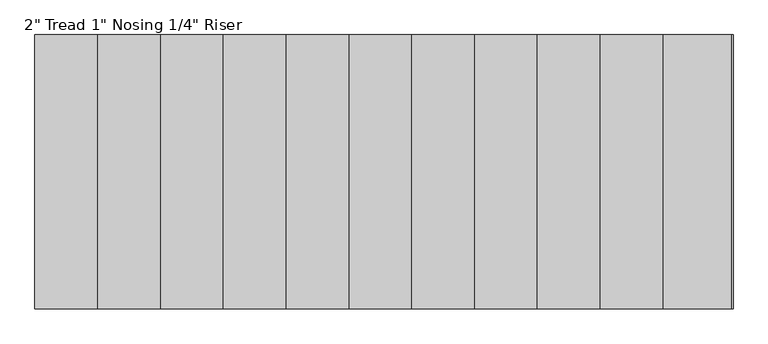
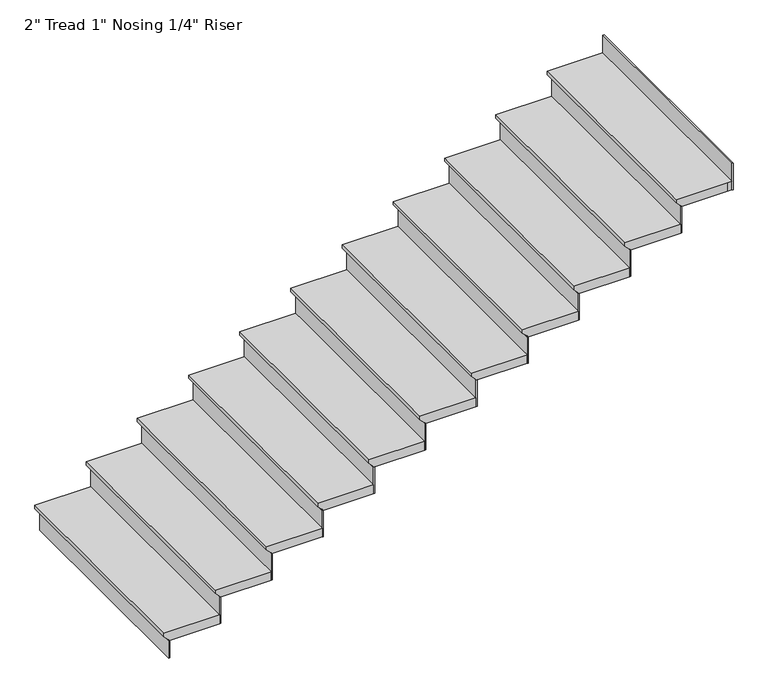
"""IFC4 building model written with IfcOpenShell, lengths in millimetres: stair flight geometry."""

from ifc_helpers import new_model, si_unit, origin, place, context, project, spatial, faceted_brep, source, transform, mapped, element, save


def stair_flight_60157ff4(model_context):
    return source(origin(), model_context, "Body", "Brep", [
        faceted_brep([(15326.0726301, 7827.7746638, 4705.35), (15326.0726301, 7827.7746638, 4724.4), (15326.0726301, 9046.9746638, 4724.4), (15326.0726301, 9046.9746638, 4705.35), (15351.4726301, 7827.7746638, 4679.95), (15351.4726301, 9046.9746638, 4679.95), (15630.8726301, 7827.7746638, 4724.4), (15630.8726301, 9046.9746638, 4724.4), (15351.4726301, 9046.9746638, 4673.6), (15630.8726301, 9046.9746638, 4673.6), (15630.8726301, 7827.7746638, 4673.6), (15351.4726301, 7827.7746638, 4673.6)], [[[0, 1, 2, 3]], [[4, 0, 3, 5]], [[2, 1, 6, 7]], [[8, 9, 10, 11]], [[2, 7, 9, 8, 5, 3]], [[8, 11, 4, 5]], [[6, 1, 0, 4, 11, 10]], [[7, 6, 10, 9]]]),
        faceted_brep([(15351.4726301, 7827.7746638, 4673.6), (15351.4726301, 7827.7746638, 4572.0), (15357.8226301, 7827.7746638, 4572.0), (15357.8226301, 7827.7746638, 4673.6), (15351.4726301, 9046.9746638, 4673.6), (15357.8226301, 9046.9746638, 4673.6), (15357.8226301, 9046.9746638, 4572.0), (15351.4726301, 9046.9746638, 4572.0)], [[[0, 1, 2, 3]], [[4, 5, 6, 7]], [[1, 0, 4, 7]], [[2, 1, 7, 6]], [[3, 2, 6, 5]], [[0, 3, 5, 4]]]),
        faceted_brep([(15630.8726301, 7827.7746638, 4826.0), (15630.8726301, 7827.7746638, 4673.6), (15637.2226301, 7827.7746638, 4673.6), (15637.2226301, 7827.7746638, 4826.0), (15630.8726301, 9046.9746638, 4826.0), (15637.2226301, 9046.9746638, 4826.0), (15637.2226301, 9046.9746638, 4673.6), (15630.8726301, 9046.9746638, 4673.6)], [[[0, 1, 2, 3]], [[4, 5, 6, 7]], [[1, 0, 4, 7]], [[2, 1, 7, 6]], [[3, 2, 6, 5]], [[0, 3, 5, 4]]]),
        faceted_brep([(15605.4726301, 9046.9746638, 4876.8), (15605.4726301, 7827.7746638, 4876.8), (15910.2726301, 7827.7746638, 4876.8), (15910.2726301, 9046.9746638, 4876.8), (15630.8726301, 9046.9746638, 4826.0), (15910.2726301, 9046.9746638, 4826.0), (15910.2726301, 7827.7746638, 4826.0), (15630.8726301, 7827.7746638, 4826.0), (15630.8726301, 9046.9746638, 4832.35), (15605.4726301, 9046.9746638, 4857.75), (15630.8726301, 7827.7746638, 4832.35), (15605.4726301, 7827.7746638, 4857.75)], [[[0, 1, 2, 3]], [[4, 5, 6, 7]], [[0, 3, 5, 4, 8, 9]], [[4, 7, 10, 8]], [[2, 1, 11, 10, 7, 6]], [[3, 2, 6, 5]], [[11, 1, 0, 9]], [[10, 11, 9, 8]]]),
        faceted_brep([(15910.2726301, 7827.7746638, 4978.4), (15910.2726301, 7827.7746638, 4826.0), (15916.6226301, 7827.7746638, 4826.0), (15916.6226301, 7827.7746638, 4978.4), (15910.2726301, 9046.9746638, 4978.4), (15916.6226301, 9046.9746638, 4978.4), (15916.6226301, 9046.9746638, 4826.0), (15910.2726301, 9046.9746638, 4826.0)], [[[0, 1, 2, 3]], [[4, 5, 6, 7]], [[1, 0, 4, 7]], [[2, 1, 7, 6]], [[3, 2, 6, 5]], [[0, 3, 5, 4]]]),
        faceted_brep([(15884.8726301, 9046.9746638, 5029.2), (15884.8726301, 7827.7746638, 5029.2), (16189.6726301, 7827.7746638, 5029.2), (16189.6726301, 9046.9746638, 5029.2), (15910.2726301, 9046.9746638, 4978.4), (16189.6726301, 9046.9746638, 4978.4), (16189.6726301, 7827.7746638, 4978.4), (15910.2726301, 7827.7746638, 4978.4), (15910.2726301, 9046.9746638, 4984.75), (15884.8726301, 9046.9746638, 5010.15), (15910.2726301, 7827.7746638, 4984.75), (15884.8726301, 7827.7746638, 5010.15)], [[[0, 1, 2, 3]], [[4, 5, 6, 7]], [[0, 3, 5, 4, 8, 9]], [[4, 7, 10, 8]], [[2, 1, 11, 10, 7, 6]], [[3, 2, 6, 5]], [[11, 1, 0, 9]], [[10, 11, 9, 8]]]),
        faceted_brep([(16189.6726301, 7827.7746638, 5130.8), (16189.6726301, 7827.7746638, 4978.4), (16196.0226301, 7827.7746638, 4978.4), (16196.0226301, 7827.7746638, 5130.8), (16189.6726301, 9046.9746638, 5130.8), (16196.0226301, 9046.9746638, 5130.8), (16196.0226301, 9046.9746638, 4978.4), (16189.6726301, 9046.9746638, 4978.4)], [[[0, 1, 2, 3]], [[4, 5, 6, 7]], [[1, 0, 4, 7]], [[2, 1, 7, 6]], [[3, 2, 6, 5]], [[0, 3, 5, 4]]]),
        faceted_brep([(16164.2726301, 9046.9746638, 5181.6), (16164.2726301, 7827.7746638, 5181.6), (16469.0726301, 7827.7746638, 5181.6), (16469.0726301, 9046.9746638, 5181.6), (16189.6726301, 9046.9746638, 5130.8), (16469.0726301, 9046.9746638, 5130.8), (16469.0726301, 7827.7746638, 5130.8), (16189.6726301, 7827.7746638, 5130.8), (16189.6726301, 9046.9746638, 5137.15), (16164.2726301, 9046.9746638, 5162.55), (16189.6726301, 7827.7746638, 5137.15), (16164.2726301, 7827.7746638, 5162.55)], [[[0, 1, 2, 3]], [[4, 5, 6, 7]], [[0, 3, 5, 4, 8, 9]], [[4, 7, 10, 8]], [[2, 1, 11, 10, 7, 6]], [[3, 2, 6, 5]], [[11, 1, 0, 9]], [[10, 11, 9, 8]]]),
        faceted_brep([(16469.0726301, 7827.7746638, 5283.2), (16469.0726301, 7827.7746638, 5130.8), (16475.4226301, 7827.7746638, 5130.8), (16475.4226301, 7827.7746638, 5283.2), (16469.0726301, 9046.9746638, 5283.2), (16475.4226301, 9046.9746638, 5283.2), (16475.4226301, 9046.9746638, 5130.8), (16469.0726301, 9046.9746638, 5130.8)], [[[0, 1, 2, 3]], [[4, 5, 6, 7]], [[1, 0, 4, 7]], [[2, 1, 7, 6]], [[3, 2, 6, 5]], [[0, 3, 5, 4]]]),
        faceted_brep([(16443.6726301, 9046.9746638, 5334.0), (16443.6726301, 7827.7746638, 5334.0), (16748.4726301, 7827.7746638, 5334.0), (16748.4726301, 9046.9746638, 5334.0), (16469.0726301, 9046.9746638, 5283.2), (16748.4726301, 9046.9746638, 5283.2), (16748.4726301, 7827.7746638, 5283.2), (16469.0726301, 7827.7746638, 5283.2), (16469.0726301, 9046.9746638, 5289.55), (16443.6726301, 9046.9746638, 5314.95), (16469.0726301, 7827.7746638, 5289.55), (16443.6726301, 7827.7746638, 5314.95)], [[[0, 1, 2, 3]], [[4, 5, 6, 7]], [[0, 3, 5, 4, 8, 9]], [[4, 7, 10, 8]], [[2, 1, 11, 10, 7, 6]], [[3, 2, 6, 5]], [[11, 1, 0, 9]], [[10, 11, 9, 8]]]),
        faceted_brep([(16748.4726301, 7827.7746638, 5435.6), (16748.4726301, 7827.7746638, 5283.2), (16754.8226301, 7827.7746638, 5283.2), (16754.8226301, 7827.7746638, 5435.6), (16748.4726301, 9046.9746638, 5435.6), (16754.8226301, 9046.9746638, 5435.6), (16754.8226301, 9046.9746638, 5283.2), (16748.4726301, 9046.9746638, 5283.2)], [[[0, 1, 2, 3]], [[4, 5, 6, 7]], [[1, 0, 4, 7]], [[2, 1, 7, 6]], [[3, 2, 6, 5]], [[0, 3, 5, 4]]]),
        faceted_brep([(16723.0726301, 9046.9746638, 5486.4), (16723.0726301, 7827.7746638, 5486.4), (17027.8726301, 7827.7746638, 5486.4), (17027.8726301, 9046.9746638, 5486.4), (16748.4726301, 9046.9746638, 5435.6), (17027.8726301, 9046.9746638, 5435.6), (17027.8726301, 7827.7746638, 5435.6), (16748.4726301, 7827.7746638, 5435.6), (16748.4726301, 9046.9746638, 5441.95), (16723.0726301, 9046.9746638, 5467.35), (16748.4726301, 7827.7746638, 5441.95), (16723.0726301, 7827.7746638, 5467.35)], [[[0, 1, 2, 3]], [[4, 5, 6, 7]], [[0, 3, 5, 4, 8, 9]], [[4, 7, 10, 8]], [[2, 1, 11, 10, 7, 6]], [[3, 2, 6, 5]], [[11, 1, 0, 9]], [[10, 11, 9, 8]]]),
        faceted_brep([(17027.8726301, 7827.7746638, 5588.0), (17027.8726301, 7827.7746638, 5435.6), (17034.2226301, 7827.7746638, 5435.6), (17034.2226301, 7827.7746638, 5588.0), (17027.8726301, 9046.9746638, 5588.0), (17034.2226301, 9046.9746638, 5588.0), (17034.2226301, 9046.9746638, 5435.6), (17027.8726301, 9046.9746638, 5435.6)], [[[0, 1, 2, 3]], [[4, 5, 6, 7]], [[1, 0, 4, 7]], [[2, 1, 7, 6]], [[3, 2, 6, 5]], [[0, 3, 5, 4]]]),
        faceted_brep([(17002.4726301, 9046.9746638, 5638.8), (17002.4726301, 7827.7746638, 5638.8), (17307.2726301, 7827.7746638, 5638.8), (17307.2726301, 9046.9746638, 5638.8), (17027.8726301, 9046.9746638, 5588.0), (17307.2726301, 9046.9746638, 5588.0), (17307.2726301, 7827.7746638, 5588.0), (17027.8726301, 7827.7746638, 5588.0), (17027.8726301, 9046.9746638, 5594.35), (17002.4726301, 9046.9746638, 5619.75), (17027.8726301, 7827.7746638, 5594.35), (17002.4726301, 7827.7746638, 5619.75)], [[[0, 1, 2, 3]], [[4, 5, 6, 7]], [[0, 3, 5, 4, 8, 9]], [[4, 7, 10, 8]], [[2, 1, 11, 10, 7, 6]], [[3, 2, 6, 5]], [[11, 1, 0, 9]], [[10, 11, 9, 8]]]),
        faceted_brep([(17307.2726301, 7827.7746638, 5740.4), (17307.2726301, 7827.7746638, 5588.0), (17313.6226301, 7827.7746638, 5588.0), (17313.6226301, 7827.7746638, 5740.4), (17307.2726301, 9046.9746638, 5740.4), (17313.6226301, 9046.9746638, 5740.4), (17313.6226301, 9046.9746638, 5588.0), (17307.2726301, 9046.9746638, 5588.0)], [[[0, 1, 2, 3]], [[4, 5, 6, 7]], [[1, 0, 4, 7]], [[2, 1, 7, 6]], [[3, 2, 6, 5]], [[0, 3, 5, 4]]]),
        faceted_brep([(17281.8726301, 9046.9746638, 5791.2), (17281.8726301, 7827.7746638, 5791.2), (17586.6726301, 7827.7746638, 5791.2), (17586.6726301, 9046.9746638, 5791.2), (17307.2726301, 9046.9746638, 5740.4), (17586.6726301, 9046.9746638, 5740.4), (17586.6726301, 7827.7746638, 5740.4), (17307.2726301, 7827.7746638, 5740.4), (17307.2726301, 9046.9746638, 5746.75), (17281.8726301, 9046.9746638, 5772.15), (17307.2726301, 7827.7746638, 5746.75), (17281.8726301, 7827.7746638, 5772.15)], [[[0, 1, 2, 3]], [[4, 5, 6, 7]], [[0, 3, 5, 4, 8, 9]], [[4, 7, 10, 8]], [[2, 1, 11, 10, 7, 6]], [[3, 2, 6, 5]], [[11, 1, 0, 9]], [[10, 11, 9, 8]]]),
        faceted_brep([(17586.6726301, 7827.7746638, 5892.8), (17586.6726301, 7827.7746638, 5740.4), (17593.0226301, 7827.7746638, 5740.4), (17593.0226301, 7827.7746638, 5892.8), (17586.6726301, 9046.9746638, 5892.8), (17593.0226301, 9046.9746638, 5892.8), (17593.0226301, 9046.9746638, 5740.4), (17586.6726301, 9046.9746638, 5740.4)], [[[0, 1, 2, 3]], [[4, 5, 6, 7]], [[1, 0, 4, 7]], [[2, 1, 7, 6]], [[3, 2, 6, 5]], [[0, 3, 5, 4]]]),
        faceted_brep([(17561.2726301, 9046.9746638, 5943.6), (17561.2726301, 7827.7746638, 5943.6), (17866.0726301, 7827.7746638, 5943.6), (17866.0726301, 9046.9746638, 5943.6), (17586.6726301, 9046.9746638, 5892.8), (17866.0726301, 9046.9746638, 5892.8), (17866.0726301, 7827.7746638, 5892.8), (17586.6726301, 7827.7746638, 5892.8), (17586.6726301, 9046.9746638, 5899.15), (17561.2726301, 9046.9746638, 5924.55), (17586.6726301, 7827.7746638, 5899.15), (17561.2726301, 7827.7746638, 5924.55)], [[[0, 1, 2, 3]], [[4, 5, 6, 7]], [[0, 3, 5, 4, 8, 9]], [[4, 7, 10, 8]], [[2, 1, 11, 10, 7, 6]], [[3, 2, 6, 5]], [[11, 1, 0, 9]], [[10, 11, 9, 8]]]),
        faceted_brep([(17866.0726301, 7827.7746638, 6045.2), (17866.0726301, 7827.7746638, 5892.8), (17872.4226301, 7827.7746638, 5892.8), (17872.4226301, 7827.7746638, 6045.2), (17866.0726301, 9046.9746638, 6045.2), (17872.4226301, 9046.9746638, 6045.2), (17872.4226301, 9046.9746638, 5892.8), (17866.0726301, 9046.9746638, 5892.8)], [[[0, 1, 2, 3]], [[4, 5, 6, 7]], [[1, 0, 4, 7]], [[2, 1, 7, 6]], [[3, 2, 6, 5]], [[0, 3, 5, 4]]]),
        faceted_brep([(17840.6726301, 9046.9746638, 6096.0), (17840.6726301, 7827.7746638, 6096.0), (18145.4726301, 7827.7746638, 6096.0), (18145.4726301, 9046.9746638, 6096.0), (17866.0726301, 9046.9746638, 6045.2), (18145.4726301, 9046.9746638, 6045.2), (18145.4726301, 7827.7746638, 6045.2), (17866.0726301, 7827.7746638, 6045.2), (17866.0726301, 9046.9746638, 6051.55), (17840.6726301, 9046.9746638, 6076.95), (17866.0726301, 7827.7746638, 6051.55), (17840.6726301, 7827.7746638, 6076.95)], [[[0, 1, 2, 3]], [[4, 5, 6, 7]], [[0, 3, 5, 4, 8, 9]], [[4, 7, 10, 8]], [[2, 1, 11, 10, 7, 6]], [[3, 2, 6, 5]], [[11, 1, 0, 9]], [[10, 11, 9, 8]]]),
        faceted_brep([(18424.8726301, 7827.7746638, 6350.0), (18424.8726301, 7827.7746638, 6197.6), (18431.2226301, 7827.7746638, 6197.6), (18431.2226301, 7827.7746638, 6350.0), (18424.8726301, 9046.9746638, 6350.0), (18431.2226301, 9046.9746638, 6350.0), (18431.2226301, 9046.9746638, 6197.6), (18424.8726301, 9046.9746638, 6197.6)], [[[0, 1, 2, 3]], [[4, 5, 6, 7]], [[1, 0, 4, 7]], [[2, 1, 7, 6]], [[3, 2, 6, 5]], [[0, 3, 5, 4]]]),
        faceted_brep([(18145.4726301, 7827.7746638, 6197.6), (18145.4726301, 7827.7746638, 6045.2), (18151.8226301, 7827.7746638, 6045.2), (18151.8226301, 7827.7746638, 6197.6), (18145.4726301, 9046.9746638, 6197.6), (18151.8226301, 9046.9746638, 6197.6), (18151.8226301, 9046.9746638, 6045.2), (18145.4726301, 9046.9746638, 6045.2)], [[[0, 1, 2, 3]], [[4, 5, 6, 7]], [[1, 0, 4, 7]], [[2, 1, 7, 6]], [[3, 2, 6, 5]], [[0, 3, 5, 4]]]),
        faceted_brep([(18424.8726301, 9046.9746638, 6248.4), (18399.4726301, 9046.9746638, 6248.4), (18120.0726301, 9046.9746638, 6248.4), (18120.0726301, 7827.7746638, 6248.4), (18399.4726301, 7827.7746638, 6248.4), (18424.8726301, 7827.7746638, 6248.4), (18399.4726301, 9046.9746638, 6197.6), (18424.8726301, 9046.9746638, 6197.6), (18424.8726301, 7827.7746638, 6197.6), (18399.4726301, 7827.7746638, 6197.6), (18145.4726301, 7827.7746638, 6197.6), (18145.4726301, 9046.9746638, 6197.6), (18145.4726301, 9046.9746638, 6203.95), (18120.0726301, 9046.9746638, 6229.35), (18145.4726301, 7827.7746638, 6203.95), (18120.0726301, 7827.7746638, 6229.35)], [[[0, 1, 2, 3, 4, 5]], [[6, 7, 8, 9, 10, 11]], [[1, 0, 7, 6]], [[2, 1, 6, 11, 12, 13]], [[11, 10, 14, 12]], [[4, 3, 15, 14, 10, 9]], [[5, 4, 9, 8]], [[0, 5, 8, 7]], [[15, 3, 2, 13]], [[14, 15, 13, 12]]]),
    ])


if __name__ == "__main__":
    model = new_model("IFC4")
    model_context = context("Model", 3, world=origin())
    ifc_project = project(units=[si_unit("LENGTHUNIT", "METRE", prefix="MILLI")], contexts=[model_context])
    site = spatial("IfcSite", under=ifc_project)
    building = spatial("IfcBuilding", under=site)
    placement = place(None, origin())
    stair_flight_shape = stair_flight_60157ff4(model_context)
    element("IfcStairFlight", 1, ObjectType="2\" Tread 1\" Nosing 1/4\" Riser", at=placement, inside=building, context=model_context, shape_type="MappedRepresentation", body=[
        mapped(stair_flight_shape, transform((0.0, 0.0, 0.0), x_axis=(1.0, 0.0, 0.0), y_axis=(0.0, 1.0, 0.0), z_axis=(0.0, 0.0, 1.0))),
    ])
    save(model, "model.ifc")
